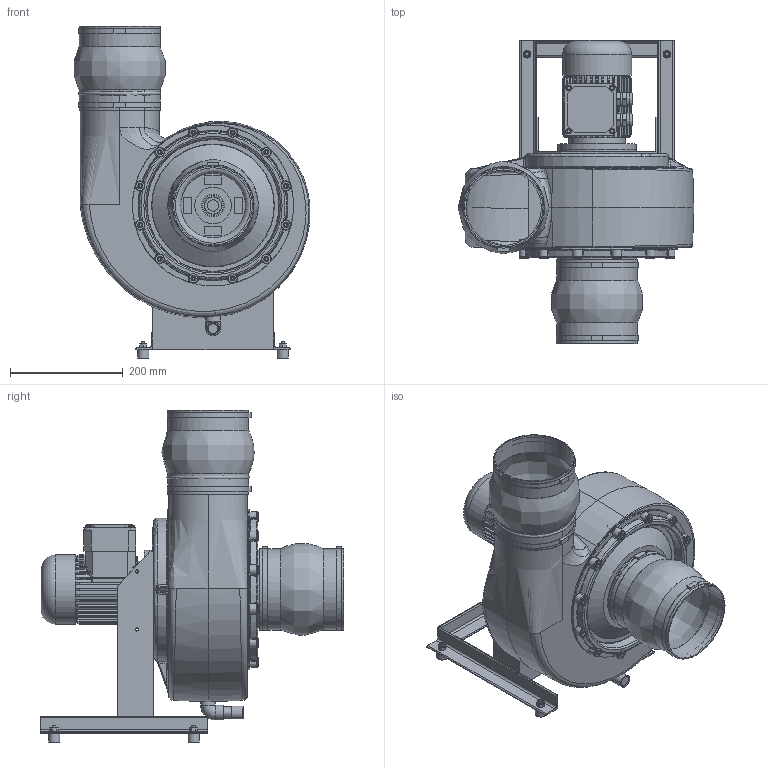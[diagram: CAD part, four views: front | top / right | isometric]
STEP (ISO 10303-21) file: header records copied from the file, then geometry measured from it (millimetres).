
FILE_DESCRIPTION( ( 'Unknown' ), '1' );
FILE_NAME( 'K:/HOME/HLT_CAD/Z/HF/3D/Zusammenstellung/HFR/HFR 15_17/HFR...-15D/DS_1/HFR_140-15D/GL360/HFR_140-15D_DS1_GL_360_063.stp', 'Unknown', ( 'Unknown' ), ( 'Unknown' ), 'PSStep 14.0', 'Unknown', ' ' );
FILE_SCHEMA( ( 'AUTOMOTIVE_DESIGN { 1 0 10303 214 1 1 1 1 }' ) );
Length unit declared in the file: millimetre
Products named in the file (34): HFR-140_GL; HFR 140_GL; Ensat-Buchse-M8; Ensat-Buchse-M6; 6203_Kugelmanschette; 6203_Manschettenband_HFR140; 6203_Schelle_HFR140; 5217_Laufradbefestigung; 5217_Drehteil; 5217_Flachdichtung_Ø32; 5217_Schraubkappe; 5217_Flachdichtung_Ø63; 5280_Laufrad140; 5267_Stahlnabe; 5280_Deckscheibe; 5280_Grundplatte; 1108_14; 5159_Kondensatablauf_125-315; Winkel_90°_G1_2; Stopfen_G1_2-oa4; Rohr_20; Verschlusskappe_20; 5282_Gestell_HFR140_15_17_DS1; Angle 30x30x3-oa0; Angle 30x30x3-oa1; Angle 30x30x3-oa2; 360°-oa3; Assem1; 6611_Motorring_Bg63; 140 mit laufrad HF R 140; Schwidä_20x15; 6kant_M8; B5_63a_2HIHI
Assembly tree (59 placements, depth 3):
  Assem1
    6611_Motorring_Bg63
    140 mit laufrad HF R 140
    Schwidä_20x15  x4
    6kant_M8  x4
    B5_63a_2HIHI
    5282_Gestell_HFR140_15_17_DS1
      Angle 30x30x3-oa0
      Angle 30x30x3-oa1
      Angle 30x30x3-oa2
      360°-oa3
    HFR-140_GL
      HFR 140_GL
      HFR 140_GL
      Ensat-Buchse-M8  x8
      Ensat-Buchse-M6  x12
    5280_Laufrad140
      5267_Stahlnabe
      5280_Deckscheibe
      5280_Grundplatte
      1108_14
    5159_Kondensatablauf_125-315
      Winkel_90°_G1_2
      Stopfen_G1_2-oa4
      Rohr_20
      Verschlusskappe_20
    6203_Kugelmanschette  x2
      6203_Manschettenband_HFR140
      6203_Schelle_HFR140
    5217_Laufradbefestigung
      5217_Drehteil
      5217_Flachdichtung_Ø32
      5217_Schraubkappe
      5217_Flachdichtung_Ø63
Bounding box: 418.9 x 540 x 590 mm (x, y, z)
Volume: 4582828.2 mm3; surface area: 2141098.1 mm2
Topology: 54 solids, 55 shells, 2461 faces, 5789 edges, 3623 vertices
Faces by surface type: plane 1092, cylinder 646, bspline 357, cone 180, torus 152, offset 26, revolution 8
Full cylindrical faces by diameter (mm): 3.242 x1, 3.5 x2, 4.917 x16, 5.5 x4, 6 x8, 6.35 x2, 6.647 x12, 8 x8, 9 x18, 10 x8, 10.5 x1, 11 x13, 12 x81, 13 x85, 13.2 x1, 16 x14, 17 x20, 20 x8, 20.955 x1, 22.212 x1, 23 x1, 24 x4, 25 x1, 26.5 x2, 30.291 x1, 32 x1, 33.25 x1, 37 x1, 40 x1, 44 x1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
Entity records: 137310 total; most frequent: CARTESIAN_POINT 72672, ORIENTED_EDGE 9460, DIRECTION 8733, EDGE_CURVE 4730, AXIS2_PLACEMENT_3D 3525, VERTEX_POINT 3155, EDGE_LOOP 2873, FACE_OUTER_BOUND 2537
